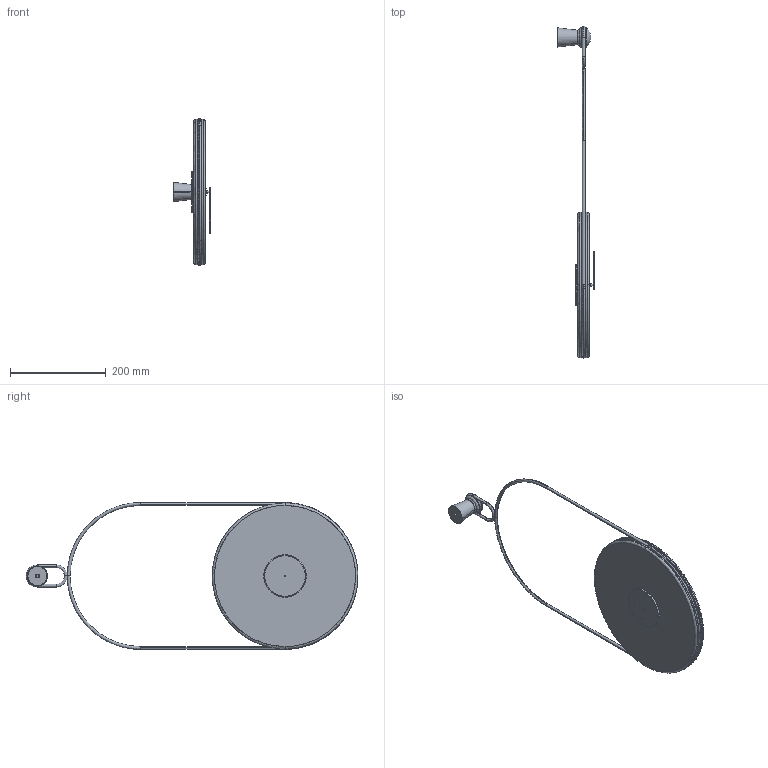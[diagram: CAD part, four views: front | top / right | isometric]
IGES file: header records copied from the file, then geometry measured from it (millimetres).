
Start section: SolidWorks IGES file using analytic representation for surfaces
Global section: file name: N:\OT\OFICINA TECNICA\PROYECTOS\EN DESARROLLO\NUEVOS_RELOJES_2018\RELOS_ESLABÓN_&_COLGANTE\3D\SOLIDWORKS\ESLABÓN_NOGAL.IGS; native system: SolidWorks 2016; preprocessor: SolidWorks 2016; author: Usuario; date: 190408.122138; units: millimetre
Bounding box: 78.23 x 691.84 x 306 mm (x, y, z)
Surface area: 258150.9 mm2 (no closed solid volume)
Topology: 0 solids, 0 shells, 205 faces, 3200 edges, 3199 vertices
Faces by surface type: bspline 115, revolution 90
